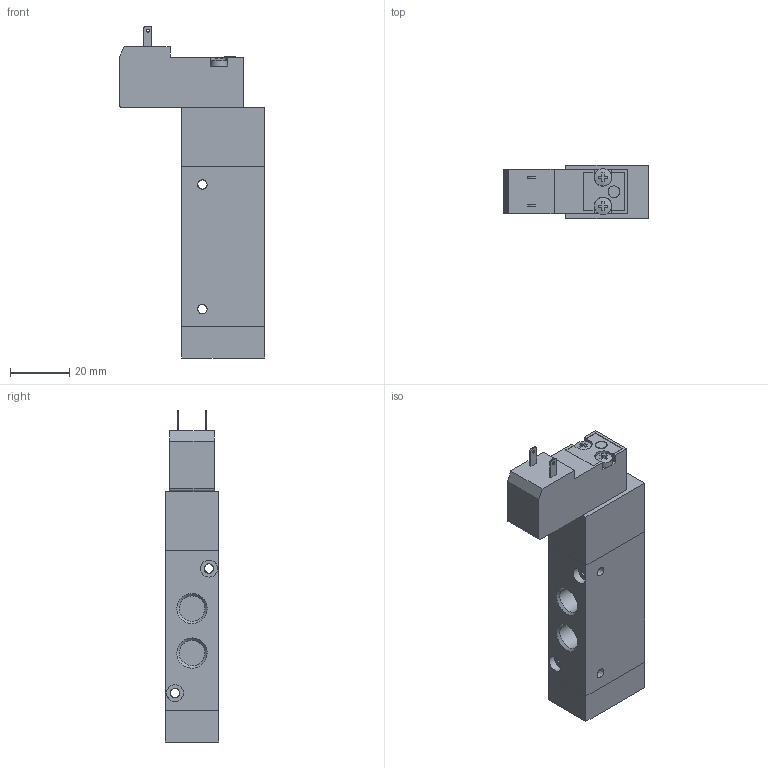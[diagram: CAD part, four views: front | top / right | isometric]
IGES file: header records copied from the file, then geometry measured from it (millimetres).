
Global section: file name: 808_52_0_1_##; native system: Autodesk Inventor 2017; preprocessor: unknown; organization: Pneumax S.p.A.; date: 20180116.111536; units: millimetre
Bounding box: 49 x 18 x 112 mm (x, y, z)
Volume: 50714.5 mm3; surface area: 15271 mm2
Topology: 3 solids, 3 shells, 142 faces, 388 edges, 265 vertices
Faces by surface type: bspline 142
